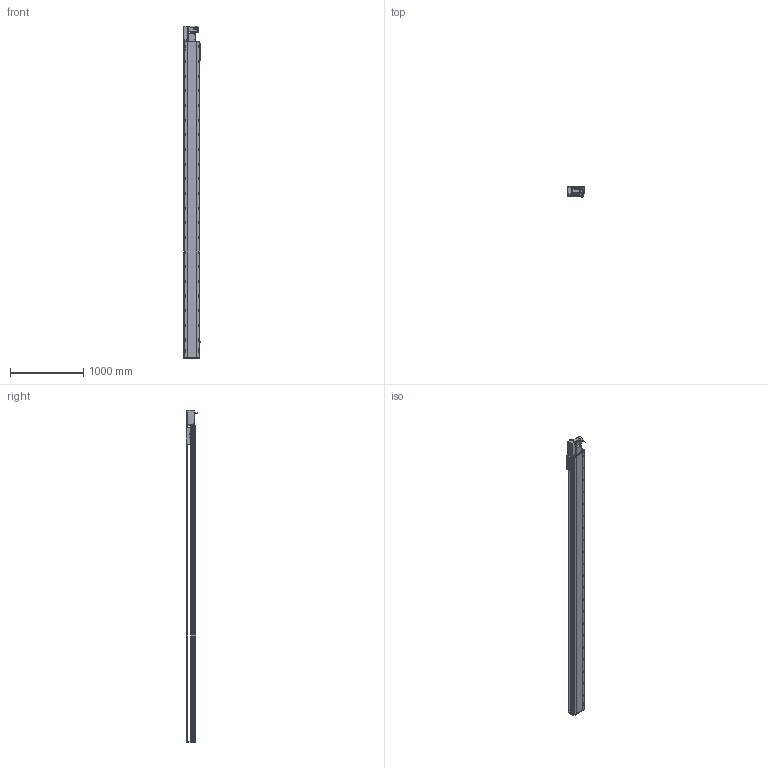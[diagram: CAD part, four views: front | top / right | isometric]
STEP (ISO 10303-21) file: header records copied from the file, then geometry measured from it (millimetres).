
FILE_DESCRIPTION (( 'STEP AP214' ), '1' );
FILE_NAME ('RTB22S-XX-3950-L-M75-C4.STEP', '2025-12-12T03:38:54', ( '' ), ( '' ), 'SwSTEP 2.0', 'SolidWorks 2018', '' );
FILE_SCHEMA (( 'AUTOMOTIVE_DESIGN' ));
Length unit declared in the file: millimetre
Products named in the file (14): RTB22S-GY-018P^RTB22S-L-々湍釱蚾饜_RTB22S-XX-XX-L-M75-C4; RTB22S-GY-007奻裔^RTB22S-XX-XX-L-M75-C4; RTB22S-XX-3950-L-M75-C4; RTB22S-GY-005P^RTB22S-L-々湍釱蚾饜_RTB22S-XX-XX-L-M75-C4; RTB22S-GY-014--々湍釱^RTB22S-L-々湍釱蚾饜_RTB22S-XX-XX-L-M75-C4; RTB22S-L-004賑釱^RTB22S-XX-XX-L-M75-C4; RTB22S-GY-001耜裔^RTB22S-XX-XX-L-M75-C4; RTB22S-L-々湍釱蚾饜^RTB22S-XX-XX-L-M75-C4; RTB22S-GY-017P^RTB22S-L-々湍釱蚾饜_RTB22S-XX-XX-L-M75-C4; OMRON EE-SX672 传感器^RTB22S-XX-XX-L-M75-C4; RTH22-GY-013外置感应片^RTB22S-XX-XX-L-M75-C4; RTB22S-L-011菁釱^RTB22S-XX-XX-L-M75-C4; RTB22S-GY-008-M75--萇儂啣^RTB22S-L-々湍釱蚾饜_RTB22S-XX-XX-L-M75-C4; 750W萇儂^RTB22S-XX-XX-L-M75-C4
Assembly tree (16 placements, depth 3):
  RTB22S-XX-3950-L-M75-C4
    RTB22S-L-011菁釱^RTB22S-XX-XX-L-M75-C4
    750W萇儂^RTB22S-XX-XX-L-M75-C4
    RTB22S-L-004賑釱^RTB22S-XX-XX-L-M75-C4
    OMRON EE-SX672 传感器^RTB22S-XX-XX-L-M75-C4  x3
    RTH22-GY-013外置感应片^RTB22S-XX-XX-L-M75-C4
    RTB22S-GY-007奻裔^RTB22S-XX-XX-L-M75-C4
    RTB22S-GY-001耜裔^RTB22S-XX-XX-L-M75-C4
    RTB22S-L-々湍釱蚾饜^RTB22S-XX-XX-L-M75-C4
      RTB22S-GY-014--々湍釱^RTB22S-L-々湍釱蚾饜_RTB22S-XX-XX-L-M75-C4
      RTB22S-GY-017P^RTB22S-L-々湍釱蚾饜_RTB22S-XX-XX-L-M75-C4  x2
      RTB22S-GY-005P^RTB22S-L-々湍釱蚾饜_RTB22S-XX-XX-L-M75-C4
      RTB22S-GY-008-M75--萇儂啣^RTB22S-L-々湍釱蚾饜_RTB22S-XX-XX-L-M75-C4
      RTB22S-GY-018P^RTB22S-L-々湍釱蚾饜_RTB22S-XX-XX-L-M75-C4
Bounding box: 238.5 x 162.7 x 4529 mm (x, y, z)
Volume: 55657502 mm3; surface area: 5652809.5 mm2
Topology: 15 solids, 15 shells, 2235 faces, 6086 edges, 3872 vertices
Faces by surface type: plane 943, cylinder 790, bspline 296, cone 194, sphere 8, torus 4
Entity records: 61980 total; most frequent: CARTESIAN_POINT 17244, ORIENTED_EDGE 8848, DIRECTION 8758, EDGE_CURVE 4424, AXIS2_PLACEMENT_3D 3182, VERTEX_POINT 2876, LINE 2394, VECTOR 2394
